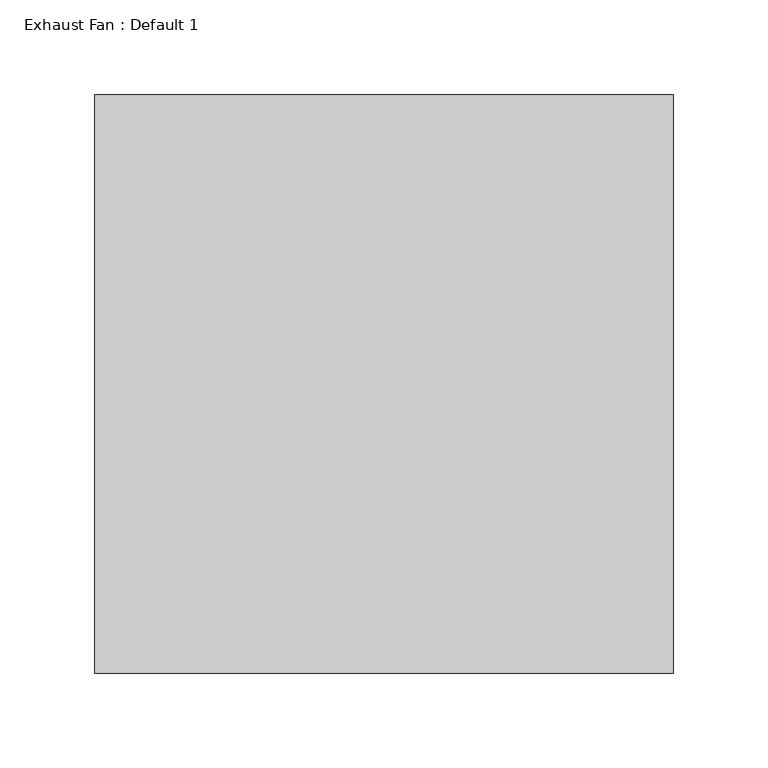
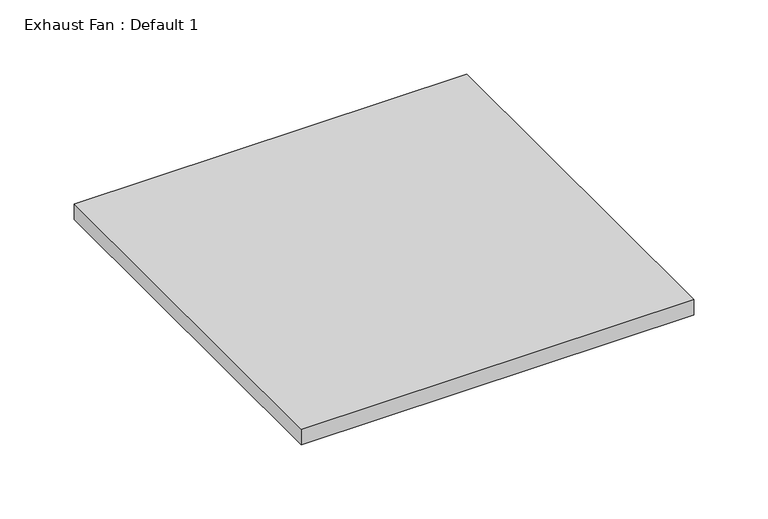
"""IFC4 building model written with IfcOpenShell, lengths in millimetres: proxy geometry, Exhaust Fan : Default 1."""

import ifcopenshell
import ifcopenshell.guid

model = None  # the IFC model being written
_history = None  # IfcOwnerHistory: only IFC2X3 demands one
_inside = {}  # id of a spatial element -> (the spatial element, [elements in it])
_under = {}  # id of a project, library or spatial element -> (it, [spatial elements below it])
_declared = {}  # id of a project -> (the project, [libraries it declares])
_typed = {}  # id of a type object -> (the type object, [elements of that type])
_made_of = {}  # id of a material, layer set ... -> (it, [elements and type objects made of it])


def new_model(schema):
    """Start an empty IFC model of exactly this schema.

    Asked for "IFC4X3", IfcOpenShell would pick the latest addendum, in which some entities
    have other attributes; the version numbers below select the first issue.
    IFC2X3 requires an IfcOwnerHistory on every rooted entity: one is made here for all.
    """
    global model, _history
    if schema == "IFC4X3":
        model = ifcopenshell.file(schema_version=(4, 3, 0, 0))
    else:
        model = ifcopenshell.file(schema=schema)
    _inside.clear()
    _under.clear()
    _declared.clear()
    _typed.clear()
    _made_of.clear()
    _history = None
    if model.schema == "IFC2X3":
        org = make("IfcOrganization", Name="unknown")
        user = make(
            "IfcPersonAndOrganization",
            ThePerson=make("IfcPerson", FamilyName="unknown"),
            TheOrganization=org,
        )
        app = make(
            "IfcApplication",
            ApplicationDeveloper=org,
            Version="unknown",
            ApplicationFullName="unknown",
            ApplicationIdentifier="unknown",
        )
        _history = make(
            "IfcOwnerHistory",
            OwningUser=user,
            OwningApplication=app,
            ChangeAction="ADDED",
            CreationDate=0,
        )
    return model


def make(cls, **values):
    """One entity of the class cls with the attributes given. An attribute that is None is left unset."""
    return model.create_entity(
        cls, **{name: value for name, value in values.items() if value is not None}
    )


def rooted(cls, **values):
    """An entity with a GlobalId (a new one), such as an element, a storey or a relation."""
    return make(cls, GlobalId=ifcopenshell.guid.new(), OwnerHistory=_history, **values)


def si_unit(unit_type, name, prefix=None):
    """IfcSIUnit, for example si_unit("LENGTHUNIT", "METRE", prefix="MILLI")."""
    return make("IfcSIUnit", UnitType=unit_type, Prefix=prefix, Name=name)


def assignment(units):
    """IfcUnitAssignment: the units of a project."""
    return None if units is None else make("IfcUnitAssignment", Units=units)


def point(xyz):
    """IfcCartesianPoint."""
    return None if xyz is None else make("IfcCartesianPoint", Coordinates=xyz)


def direction(xyz):
    """IfcDirection."""
    return None if xyz is None else make("IfcDirection", DirectionRatios=xyz)


def frame(location, z_axis=None, x_axis=None):
    """IfcAxis2Placement3D, a coordinate frame: its origin and axes. An axis left out is left unset."""
    return make(
        "IfcAxis2Placement3D",
        Location=point(location),
        Axis=direction(z_axis),
        RefDirection=direction(x_axis),
    )


def origin():
    """The frame at (0, 0, 0) with its axes left unset."""
    return frame((0.0, 0.0, 0.0))


def place(relative_to, where):
    """IfcLocalPlacement: puts the frame where relative to a parent placement (None: the world)."""
    return make(
        "IfcLocalPlacement", PlacementRelTo=relative_to, RelativePlacement=where
    )


def context(
    kind, dimensions, precision=None, world=None, true_north=None, identifier=None
):
    """IfcGeometricRepresentationContext, for example the 3D "Model" context."""
    return make(
        "IfcGeometricRepresentationContext",
        ContextIdentifier=identifier,
        ContextType=kind,
        CoordinateSpaceDimension=dimensions,
        Precision=precision,
        WorldCoordinateSystem=world,
        TrueNorth=true_north,
    )


def project(units=None, contexts=None):
    """IfcProject with its units and contexts."""
    return rooted(
        "IfcProject",
        Name="project",
        RepresentationContexts=contexts,
        UnitsInContext=assignment(units),
    )


def spatial(cls, under=None, at=None, **own):
    """A site, building, storey or space (cls), placed at a placement, below another one or the project."""
    s = rooted(cls, ObjectPlacement=at, **own)
    if under is not None:
        _under.setdefault(under.id(), (under, []))[1].append(s)
    return s


def polyline(points):
    """IfcPolyline through the points."""
    return make("IfcPolyline", Points=[point(p) for p in points])


def outline(outer, holes=None, kind="AREA"):
    """IfcArbitraryClosedProfileDef: a profile drawn as a closed curve; with holes, ...WithVoids."""
    if holes is None:
        return make("IfcArbitraryClosedProfileDef", ProfileType=kind, OuterCurve=outer)
    return make(
        "IfcArbitraryProfileDefWithVoids",
        ProfileType=kind,
        OuterCurve=outer,
        InnerCurves=holes,
    )


def extrude(swept, where, along, depth):
    """IfcExtrudedAreaSolid: the profile swept, set in the frame where, extruded along a direction by depth."""
    return make(
        "IfcExtrudedAreaSolid",
        SweptArea=swept,
        Position=where,
        ExtrudedDirection=direction(along),
        Depth=depth,
    )


def shape(context_of_items, identifier, shape_type, items):
    """IfcShapeRepresentation: the items that make up one representation, for example the "Body"."""
    return make(
        "IfcShapeRepresentation",
        ContextOfItems=context_of_items,
        RepresentationIdentifier=identifier,
        RepresentationType=shape_type,
        Items=items,
    )


def source(mapping_origin, context_of_items, identifier, shape_type, items):
    """IfcRepresentationMap: a shape defined once, which mapped items show again and again."""
    return make(
        "IfcRepresentationMap",
        MappingOrigin=mapping_origin,
        MappedRepresentation=shape(context_of_items, identifier, shape_type, items),
    )


def transform(
    local_origin,
    x_axis=None,
    y_axis=None,
    z_axis=None,
    scale=None,
    scale2=None,
    scale3=None,
    uniform=True,
):
    """IfcCartesianTransformationOperator3D, or its non-uniform kind. x_axis, y_axis, z_axis: its Axis1, 2, 3."""
    if uniform:
        return make(
            "IfcCartesianTransformationOperator3D",
            Axis1=direction(x_axis),
            Axis2=direction(y_axis),
            LocalOrigin=point(local_origin),
            Scale=scale,
            Axis3=direction(z_axis),
        )
    return make(
        "IfcCartesianTransformationOperator3DnonUniform",
        Axis1=direction(x_axis),
        Axis2=direction(y_axis),
        LocalOrigin=point(local_origin),
        Scale=scale,
        Axis3=direction(z_axis),
        Scale2=scale2,
        Scale3=scale3,
    )


def mapped(mapping_source, mapping_target):
    """IfcMappedItem: shows the shape of a source again, moved by a transform."""
    return make(
        "IfcMappedItem", MappingSource=mapping_source, MappingTarget=mapping_target
    )


def made_of(thing, what):
    """Note that an element or type object is made of a material, layer set ...; save() writes the relation."""
    if what is not None:
        _made_of.setdefault(what.id(), (what, []))[1].append(thing)
    return thing


def element(
    cls,
    number,
    at=None,
    inside=None,
    cuts=None,
    type_object=None,
    material=None,
    context=None,
    identifier="Body",
    shape_type=None,
    held_by="IfcProductDefinitionShape",
    body=None,
    shapes=None,
    **own,
):
    """One element of the class cls, such as IfcWall. Its Tag is "e" and its number.

    at: its placement. inside: the storey or other place that contains it. cuts: it is an
    opening in that element (IfcRelVoidsElement). A single representation is given by context,
    identifier, shape_type and body (its items); several are given by shapes. held_by: the class
    of the entity that holds the representations. save() writes the other relations.
    """
    e = rooted(cls, Tag="e%d" % number, ObjectPlacement=at, **own)
    if body is not None:
        shapes = [shape(context, identifier, shape_type, body)]
    if shapes is not None:
        e.Representation = make(held_by, Representations=shapes)
    if inside is not None:
        _inside.setdefault(inside.id(), (inside, []))[1].append(e)
    if cuts is not None:
        rooted(
            "IfcRelVoidsElement", RelatingBuildingElement=cuts, RelatedOpeningElement=e
        )
    if type_object is not None:
        _typed.setdefault(type_object.id(), (type_object, []))[1].append(e)
    return made_of(e, material)


def aggregate(whole, parts):
    """IfcRelAggregates: a whole, such as a stair, and the parts it consists of."""
    return rooted("IfcRelAggregates", RelatingObject=whole, RelatedObjects=parts)


def save(model, path):
    """Write the relations noted so far, then the file.

    IfcRelAggregates (storeys below a building ...), IfcRelContainedInSpatialStructure (elements
    in a storey), IfcRelDefinesByType, IfcRelAssociatesMaterial and IfcRelDeclares: one each for
    every whole, place, type object, material and project.
    """
    for whole, parts in _under.values():
        aggregate(whole, parts)
    for where, things in _inside.values():
        rooted(
            "IfcRelContainedInSpatialStructure",
            RelatedElements=things,
            RelatingStructure=where,
        )
    for kind, things in _typed.values():
        rooted("IfcRelDefinesByType", RelatedObjects=things, RelatingType=kind)
    for what, things in _made_of.values():
        rooted("IfcRelAssociatesMaterial", RelatedObjects=things, RelatingMaterial=what)
    for by, libraries in _declared.values():
        rooted("IfcRelDeclares", RelatingContext=by, RelatedDefinitions=libraries)
    model.write(path)


def exhaust_fan_default_1_e91b617f(model_context):
    return source(origin(), model_context, "Body", "SweptSolid", [
        extrude(outline(polyline([(152.4, 152.4), (152.4, -152.4), (-152.4, -152.4), (-152.4, 152.4), (152.4, 152.4)])), frame((0.0, 0.0, 2438.4), z_axis=(0.0, 0.0, 1.0), x_axis=(1.0, 0.0, 0.0)), (0.0, 0.0, 1.0), 12.7),
    ])


if __name__ == "__main__":
    model = new_model("IFC4")
    model_context = context("Model", 3, world=origin())
    ifc_project = project(units=[si_unit("LENGTHUNIT", "METRE", prefix="MILLI")], contexts=[model_context])
    site = spatial("IfcSite", under=ifc_project)
    building = spatial("IfcBuilding", under=site)
    placement = place(None, origin())
    exhaust_fan_default_1_shape = exhaust_fan_default_1_e91b617f(model_context)
    element("IfcBuildingElementProxy", 1, Name="Exhaust Fan : Default 1", ObjectType="Exhaust Fan : Default 1", at=placement, inside=building, context=model_context, shape_type="MappedRepresentation", body=[
        mapped(exhaust_fan_default_1_shape, transform((0.0, 0.0, 0.0), x_axis=(1.0, 0.0, 0.0), y_axis=(0.0, 1.0, 0.0), z_axis=(0.0, 0.0, 1.0))),
    ])
    save(model, "model.ifc")
